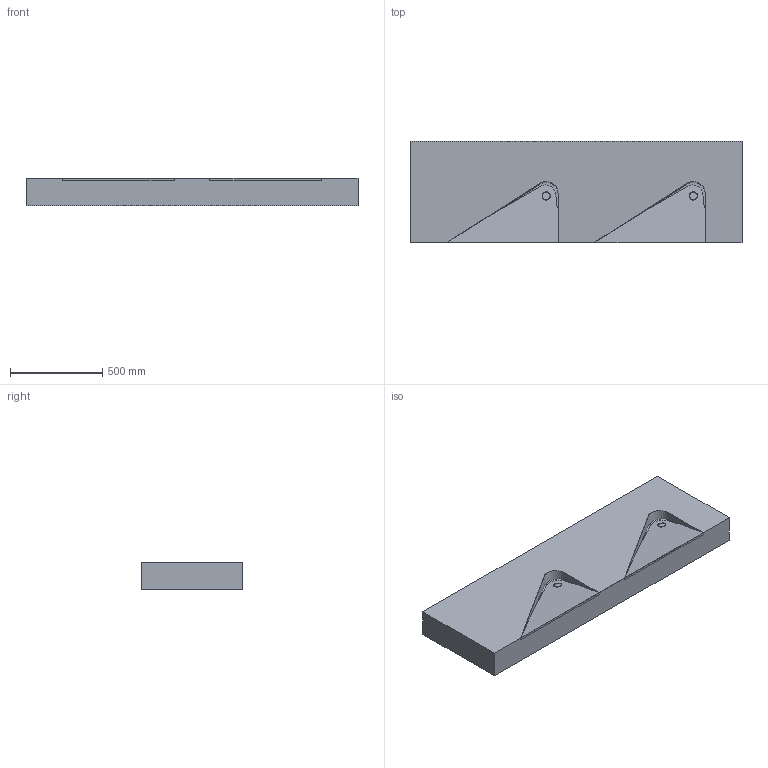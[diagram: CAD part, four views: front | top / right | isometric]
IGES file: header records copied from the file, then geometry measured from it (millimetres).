
Start section:  Autodesk Design for Windows version 2010 IGES version 5.3  Autodesk Design for Windows version 2010 IGES version 5.3
Global section: file name: D:\Desktop\GIOVANNI\SCHEDE PRODOTTO\PIANI LAVABO\FLAT\3D\MOMA DESIGN_PIANI LAVABO_FLAT SYSTEM DOUBLE.igs; native system: Rhinoceros ( Jan 17 2018 ); preprocessor: Trout Lake IGES 012 Jan 17 2018; date: 230606.131030; units: millimetre
Bounding box: 1800 x 550 x 150 mm (x, y, z)
Surface area: 3008299.6 mm2 (no closed solid volume)
Topology: 0 solids, 0 shells, 35 faces, 300 edges, 292 vertices
Faces by surface type: bspline 35
